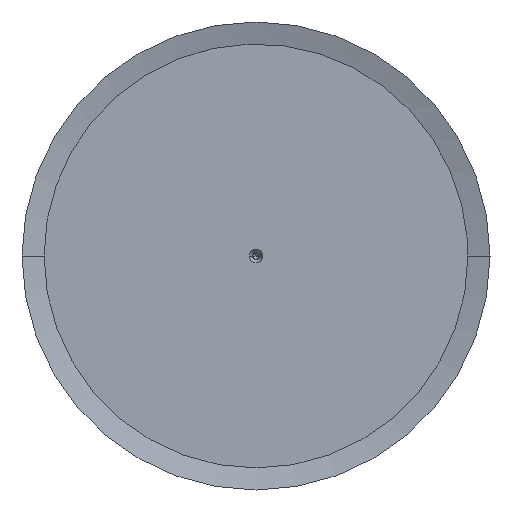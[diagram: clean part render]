
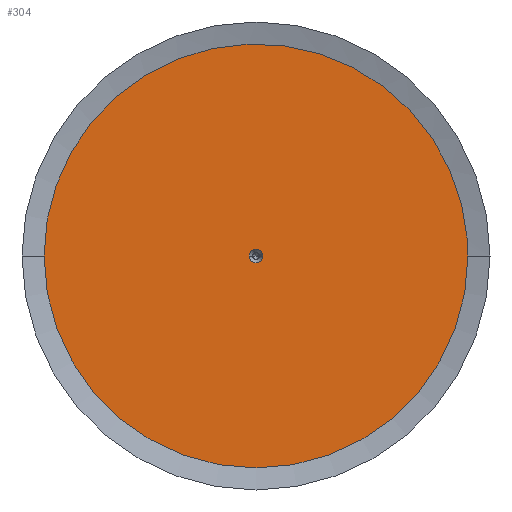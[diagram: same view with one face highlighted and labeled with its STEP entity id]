
A CAD part, left-side view. The second image highlights one B-rep face of the part: STEP entity #304.
In plain terms, the highlighted planar face has unit normal (-1, 0, 0).
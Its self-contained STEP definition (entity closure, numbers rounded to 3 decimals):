
#304=ADVANCED_FACE('',(#770,#771),#772,.T.);
#770=FACE_BOUND('',#1241,.T.);
#771=FACE_OUTER_BOUND('',#1242,.T.);
#772=PLANE('',#1243);
#1241=EDGE_LOOP('',(#3264,#3265));
#1242=EDGE_LOOP('',(#3266,#3267,#3268));
#1243=AXIS2_PLACEMENT_3D('',#3269,#3270,#3271);
#3264=ORIENTED_EDGE('',*,*,#3461,.T.);
#3265=ORIENTED_EDGE('',*,*,#3474,.T.);
#3266=ORIENTED_EDGE('',*,*,#3860,.T.);
#3267=ORIENTED_EDGE('',*,*,#3372,.T.);
#3268=ORIENTED_EDGE('',*,*,#3861,.T.);
#3269=CARTESIAN_POINT('',(0.0,0.0,0.0));
#3270=DIRECTION('',(-1.0,0.0,0.0));
#3271=DIRECTION('',(0.0,0.0,1.0));
#3372=EDGE_CURVE('',#4108,#4111,#4113,.T.);
#3461=EDGE_CURVE('',#4280,#4282,#4284,.T.);
#3474=EDGE_CURVE('',#4282,#4280,#4304,.T.);
#3860=EDGE_CURVE('',#4951,#4108,#4952,.T.);
#3861=EDGE_CURVE('',#4111,#4951,#4953,.T.);
#4108=VERTEX_POINT('',#5494);
#4111=VERTEX_POINT('',#5498);
#4113=CIRCLE('',#5501,62.5);
#4280=VERTEX_POINT('',#5943);
#4282=VERTEX_POINT('',#5946);
#4284=CIRCLE('',#5949,2.0);
#4304=CIRCLE('',#5975,2.0);
#4951=VERTEX_POINT('',#6956);
#4952=CIRCLE('',#6957,62.5);
#4953=CIRCLE('',#6958,62.5);
#5494=CARTESIAN_POINT('',(0.0,62.5,0.));
#5498=CARTESIAN_POINT('',(0.0,-62.5,0.));
#5501=AXIS2_PLACEMENT_3D('',#7543,#7544,#7545);
#5943=CARTESIAN_POINT('',(0.0,2.0,0.0));
#5946=CARTESIAN_POINT('',(0.0,-2.0,0.));
#5949=AXIS2_PLACEMENT_3D('',#7691,#7692,#7693);
#5975=AXIS2_PLACEMENT_3D('',#7718,#7719,#7720);
#6956=CARTESIAN_POINT('',(0.0,-62.323,4.698));
#6957=AXIS2_PLACEMENT_3D('',#8643,#8644,#8645);
#6958=AXIS2_PLACEMENT_3D('',#8646,#8647,#8648);
#7543=CARTESIAN_POINT('',(0.0,0.0,0.0));
#7544=DIRECTION('',(-1.0,0.0,0.0));
#7545=DIRECTION('',(0.0,1.0,0.0));
#7691=CARTESIAN_POINT('',(0.0,0.0,0.0));
#7692=DIRECTION('',(1.0,0.0,0.0));
#7693=DIRECTION('',(0.0,1.0,0.0));
#7718=CARTESIAN_POINT('',(0.0,0.0,0.0));
#7719=DIRECTION('',(1.0,0.0,0.0));
#7720=DIRECTION('',(0.0,1.0,0.0));
#8643=CARTESIAN_POINT('',(0.0,0.0,0.0));
#8644=DIRECTION('',(-1.0,0.0,0.0));
#8645=DIRECTION('',(0.0,1.0,0.0));
#8646=CARTESIAN_POINT('',(0.0,0.0,0.0));
#8647=DIRECTION('',(-1.0,0.0,0.0));
#8648=DIRECTION('',(0.0,1.0,0.0));
